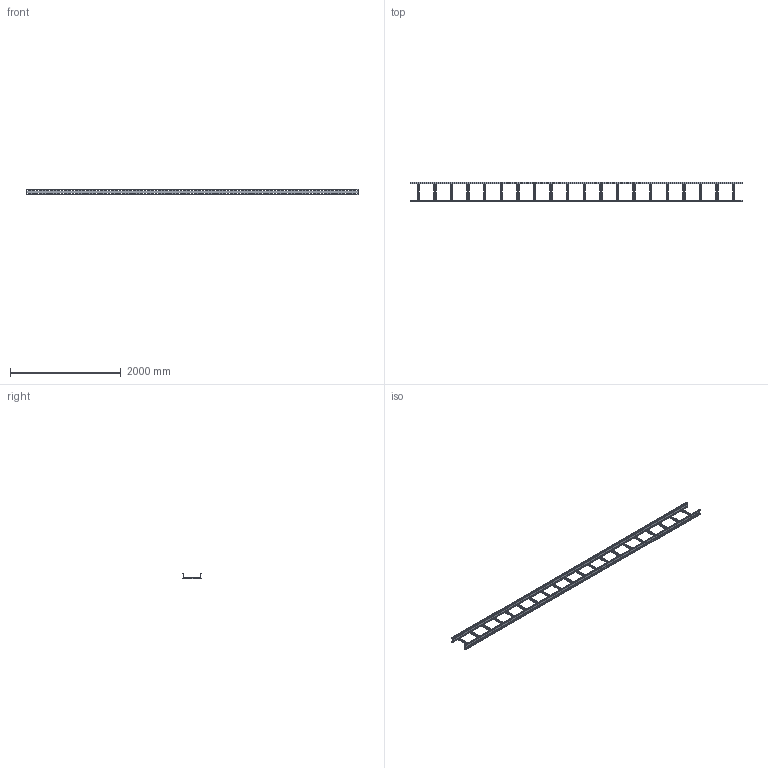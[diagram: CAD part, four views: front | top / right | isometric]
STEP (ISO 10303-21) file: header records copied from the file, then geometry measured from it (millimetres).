
FILE_DESCRIPTION(/* description */ ('','CAx-IF Rec.Pracs.---Representation and Presentation of Product Manufacturing Information (PMI)---4.0---2014-10-13'),/* implementation_level */ '2;1');
FILE_NAME(/* name */ 'Eurostrut_ECL100-300-6_Cable Ladder.step',/* time_stamp */ '2026-09-03T11:55:41+02:00',/* author */ (''),/* organization */ (''),/* preprocessor_version */ 'ST-DEVELOPER v20.1',/* originating_system */ 'Autodesk Revit 2027 27.2.0.39',/* authorisation */ '');
FILE_SCHEMA (('AP242_MANAGED_MODEL_BASED_3D_ENGINEERING_MIM_LF { 1 0 10303 442 2 1 4 }'));
Products named in the file (4): TopLevelAssembly; 60mm; 60mm_1; Cable Ladder Rung_Slotted
Assembly tree (22 placements, depth 2):
  TopLevelAssembly
    60mm
    60mm_1
    Cable Ladder Rung_Slotted  x20
Bounding box: 6000 x 346 x 100 mm (x, y, z)
Volume: 4452679 mm3; surface area: 4825887.4 mm2
Topology: 22 solids, 22 shells, 3540 faces, 10488 edges, 6992 vertices
Faces by surface type: plane 2836, bspline 600, cylinder 104
Entity records: 70948 total; most frequent: CARTESIAN_POINT 13266, ORIENTED_EDGE 12312, DIRECTION 10380, EDGE_CURVE 6156, LINE 6040, VECTOR 6040, VERTEX_POINT 4104, EDGE_LOOP 3048
